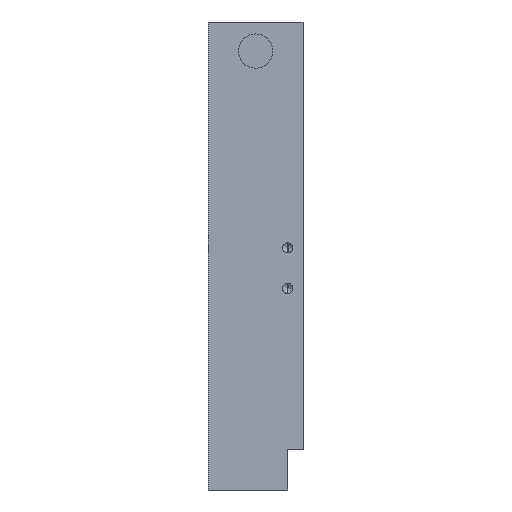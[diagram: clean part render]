
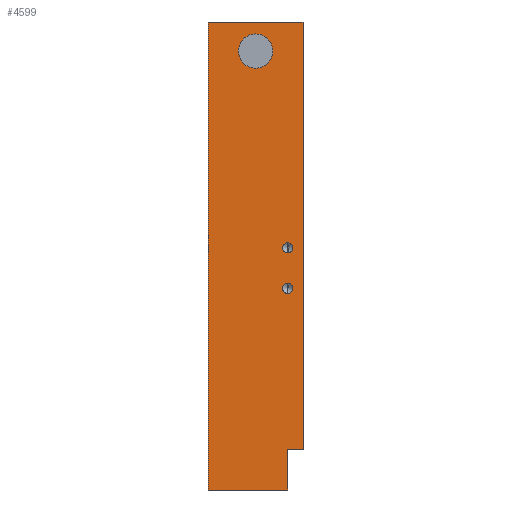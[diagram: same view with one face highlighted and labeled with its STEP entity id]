
A CAD part, left-side view. The second image highlights one B-rep face of the part: STEP entity #4599.
In plain terms, the highlighted planar face has unit normal (-1, 0, 0).
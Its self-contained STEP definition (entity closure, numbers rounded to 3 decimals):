
#5 = ORIENTED_EDGE ( 'NONE', *, *, #462, .F. ) ;
#45 = EDGE_CURVE ( 'NONE', #3520, #3289, #3191, .T. ) ;
#161 = CIRCLE ( 'NONE', #4144, 1.25 ) ;
#204 = VERTEX_POINT ( 'NONE', #3763 ) ;
#261 = LINE ( 'NONE', #3001, #530 ) ;
#266 = FACE_BOUND ( 'NONE', #2997, .T. ) ;
#306 = LINE ( 'NONE', #5026, #2471 ) ;
#355 = ORIENTED_EDGE ( 'NONE', *, *, #5074, .F. ) ;
#462 = EDGE_CURVE ( 'NONE', #204, #1691, #4390, .T. ) ;
#528 = AXIS2_PLACEMENT_3D ( 'NONE', #2910, #1632, #2890 ) ;
#530 = VECTOR ( 'NONE', #3831, 1000. ) ;
#611 = CARTESIAN_POINT ( 'NONE',  ( -216.5, 23.7, 58. ) ) ;
#647 = VERTEX_POINT ( 'NONE', #3565 ) ;
#667 = DIRECTION ( 'NONE',  ( -1., 0., 0. ) ) ;
#715 = EDGE_CURVE ( 'NONE', #2352, #4295, #3093, .T. ) ;
#718 = CARTESIAN_POINT ( 'NONE',  ( -216.5, 4., 2. ) ) ;
#745 = CARTESIAN_POINT ( 'NONE',  ( -216.5, 23.7, -58. ) ) ;
#814 = VERTEX_POINT ( 'NONE', #4631 ) ;
#882 = DIRECTION ( 'NONE',  ( 0., 0., -1. ) ) ;
#1021 = AXIS2_PLACEMENT_3D ( 'NONE', #2085, #3384, #2511 ) ;
#1137 = FACE_BOUND ( 'NONE', #2224, .T. ) ;
#1182 = VECTOR ( 'NONE', #4120, 1000. ) ;
#1190 = DIRECTION ( 'NONE',  ( -1., 0., 0. ) ) ;
#1344 = PLANE ( 'NONE',  #3712 ) ;
#1371 = VERTEX_POINT ( 'NONE', #2807 ) ;
#1388 = VECTOR ( 'NONE', #1887, 1000. ) ;
#1395 = CARTESIAN_POINT ( 'NONE',  ( -216.5, 11.95, 50.8 ) ) ;
#1411 = DIRECTION ( 'NONE',  ( 0., 0., -1. ) ) ;
#1496 = VERTEX_POINT ( 'NONE', #4639 ) ;
#1632 = DIRECTION ( 'NONE',  ( -1., 0., 0. ) ) ;
#1646 = ORIENTED_EDGE ( 'NONE', *, *, #715, .T. ) ;
#1691 = VERTEX_POINT ( 'NONE', #2579 ) ;
#1748 = CARTESIAN_POINT ( 'NONE',  ( -216.5, 0., -48. ) ) ;
#1853 = ORIENTED_EDGE ( 'NONE', *, *, #4695, .T. ) ;
#1887 = DIRECTION ( 'NONE',  ( 0., 0., -1. ) ) ;
#1987 = FACE_BOUND ( 'NONE', #3818, .T. ) ;
#1999 = EDGE_CURVE ( 'NONE', #2516, #204, #2945, .T. ) ;
#2020 = CARTESIAN_POINT ( 'NONE',  ( -216.5, 4., -48. ) ) ;
#2071 = EDGE_CURVE ( 'NONE', #814, #5401, #5098, .T. ) ;
#2085 = CARTESIAN_POINT ( 'NONE',  ( -216.5, 4., -8. ) ) ;
#2128 = VECTOR ( 'NONE', #2357, 1000. ) ;
#2185 = CIRCLE ( 'NONE', #528, 1.25 ) ;
#2224 = EDGE_LOOP ( 'NONE', ( #2536, #4247 ) ) ;
#2273 = EDGE_CURVE ( 'NONE', #3943, #1371, #2185, .T. ) ;
#2286 = LINE ( 'NONE', #2020, #2980 ) ;
#2288 = DIRECTION ( 'NONE',  ( -1., 0., 0. ) ) ;
#2352 = VERTEX_POINT ( 'NONE', #1748 ) ;
#2357 = DIRECTION ( 'NONE',  ( 0., -1., 0. ) ) ;
#2471 = VECTOR ( 'NONE', #2870, 1000. ) ;
#2489 = ORIENTED_EDGE ( 'NONE', *, *, #2781, .F. ) ;
#2498 = ORIENTED_EDGE ( 'NONE', *, *, #2687, .F. ) ;
#2511 = DIRECTION ( 'NONE',  ( 0., 0., 1. ) ) ;
#2516 = VERTEX_POINT ( 'NONE', #4939 ) ;
#2536 = ORIENTED_EDGE ( 'NONE', *, *, #5109, .F. ) ;
#2579 = CARTESIAN_POINT ( 'NONE',  ( -216.5, 0.2, 42. ) ) ;
#2687 = EDGE_CURVE ( 'NONE', #5401, #814, #161, .T. ) ;
#2781 = EDGE_CURVE ( 'NONE', #1371, #3943, #5281, .T. ) ;
#2787 = DIRECTION ( 'NONE',  ( 0., -1., 0. ) ) ;
#2807 = CARTESIAN_POINT ( 'NONE',  ( -216.5, 4., -9.25 ) ) ;
#2870 = DIRECTION ( 'NONE',  ( 0., 0., 1. ) ) ;
#2890 = DIRECTION ( 'NONE',  ( 0., 0., 1. ) ) ;
#2910 = CARTESIAN_POINT ( 'NONE',  ( -216.5, 4., -8. ) ) ;
#2921 = DIRECTION ( 'NONE',  ( 0., 0., 1. ) ) ;
#2945 = LINE ( 'NONE', #611, #2128 ) ;
#2980 = VECTOR ( 'NONE', #3702, 1000. ) ;
#2996 = DIRECTION ( 'NONE',  ( -1., 0., 0. ) ) ;
#2997 = EDGE_LOOP ( 'NONE', ( #4159, #2489 ) ) ;
#3001 = CARTESIAN_POINT ( 'NONE',  ( -216.5, 0.2, 42. ) ) ;
#3087 = CARTESIAN_POINT ( 'NONE',  ( -216.5, 0., 42. ) ) ;
#3093 = LINE ( 'NONE', #5337, #1182 ) ;
#3114 = DIRECTION ( 'NONE',  ( 0., 0., -1. ) ) ;
#3129 = ORIENTED_EDGE ( 'NONE', *, *, #4929, .F. ) ;
#3191 = LINE ( 'NONE', #5365, #4761 ) ;
#3207 = VECTOR ( 'NONE', #4477, 1000. ) ;
#3250 = AXIS2_PLACEMENT_3D ( 'NONE', #4590, #667, #3694 ) ;
#3289 = VERTEX_POINT ( 'NONE', #4047 ) ;
#3384 = DIRECTION ( 'NONE',  ( -1., 0., 0. ) ) ;
#3430 = CARTESIAN_POINT ( 'NONE',  ( -216.5, 11.95, 50.8 ) ) ;
#3520 = VERTEX_POINT ( 'NONE', #745 ) ;
#3565 = CARTESIAN_POINT ( 'NONE',  ( -216.5, 11.95, 46.55 ) ) ;
#3694 = DIRECTION ( 'NONE',  ( 0., 0., 1. ) ) ;
#3702 = DIRECTION ( 'NONE',  ( 0., -1., 0. ) ) ;
#3710 = ORIENTED_EDGE ( 'NONE', *, *, #2071, .F. ) ;
#3712 = AXIS2_PLACEMENT_3D ( 'NONE', #4858, #4010, #1411 ) ;
#3763 = CARTESIAN_POINT ( 'NONE',  ( -216.5, 0.2, 58. ) ) ;
#3818 = EDGE_LOOP ( 'NONE', ( #2498, #3710 ) ) ;
#3831 = DIRECTION ( 'NONE',  ( 0., -1., 0. ) ) ;
#3940 = ORIENTED_EDGE ( 'NONE', *, *, #5466, .F. ) ;
#3943 = VERTEX_POINT ( 'NONE', #5083 ) ;
#3949 = LINE ( 'NONE', #4882, #3207 ) ;
#4010 = DIRECTION ( 'NONE',  ( 1., 0., 0. ) ) ;
#4047 = CARTESIAN_POINT ( 'NONE',  ( -216.5, 4., -58. ) ) ;
#4113 = ORIENTED_EDGE ( 'NONE', *, *, #45, .T. ) ;
#4120 = DIRECTION ( 'NONE',  ( 0., 0., 1. ) ) ;
#4144 = AXIS2_PLACEMENT_3D ( 'NONE', #718, #1190, #2921 ) ;
#4159 = ORIENTED_EDGE ( 'NONE', *, *, #2273, .F. ) ;
#4247 = ORIENTED_EDGE ( 'NONE', *, *, #4510, .F. ) ;
#4295 = VERTEX_POINT ( 'NONE', #3087 ) ;
#4299 = CIRCLE ( 'NONE', #5005, 4.25 ) ;
#4390 = LINE ( 'NONE', #5324, #1388 ) ;
#4477 = DIRECTION ( 'NONE',  ( 0., 0., -1. ) ) ;
#4510 = EDGE_CURVE ( 'NONE', #5513, #647, #4658, .T. ) ;
#4534 = CARTESIAN_POINT ( 'NONE',  ( -216.5, 11.95, 55.05 ) ) ;
#4590 = CARTESIAN_POINT ( 'NONE',  ( -216.5, 4., 2. ) ) ;
#4599 = ADVANCED_FACE ( 'NONE', ( #1987, #266, #1137, #4616 ), #1344, .F. ) ;
#4616 = FACE_OUTER_BOUND ( 'NONE', #4925, .T. ) ;
#4631 = CARTESIAN_POINT ( 'NONE',  ( -216.5, 4., 0.75 ) ) ;
#4639 = CARTESIAN_POINT ( 'NONE',  ( -216.5, 4., -48. ) ) ;
#4658 = CIRCLE ( 'NONE', #5399, 4.25 ) ;
#4695 = EDGE_CURVE ( 'NONE', #1496, #2352, #2286, .T. ) ;
#4761 = VECTOR ( 'NONE', #2787, 1000. ) ;
#4858 = CARTESIAN_POINT ( 'NONE',  ( -216.5, 23.7, 58. ) ) ;
#4882 = CARTESIAN_POINT ( 'NONE',  ( -216.5, 4., -58. ) ) ;
#4901 = CARTESIAN_POINT ( 'NONE',  ( -216.5, 4., 3.25 ) ) ;
#4925 = EDGE_LOOP ( 'NONE', ( #3940, #1853, #1646, #3129, #5, #4960, #355, #4113 ) ) ;
#4929 = EDGE_CURVE ( 'NONE', #1691, #4295, #261, .T. ) ;
#4939 = CARTESIAN_POINT ( 'NONE',  ( -216.5, 23.7, 58. ) ) ;
#4960 = ORIENTED_EDGE ( 'NONE', *, *, #1999, .F. ) ;
#5005 = AXIS2_PLACEMENT_3D ( 'NONE', #3430, #2996, #882 ) ;
#5026 = CARTESIAN_POINT ( 'NONE',  ( -216.5, 23.7, 58. ) ) ;
#5074 = EDGE_CURVE ( 'NONE', #3520, #2516, #306, .T. ) ;
#5083 = CARTESIAN_POINT ( 'NONE',  ( -216.5, 4., -6.75 ) ) ;
#5098 = CIRCLE ( 'NONE', #3250, 1.25 ) ;
#5109 = EDGE_CURVE ( 'NONE', #647, #5513, #4299, .T. ) ;
#5281 = CIRCLE ( 'NONE', #1021, 1.25 ) ;
#5324 = CARTESIAN_POINT ( 'NONE',  ( -216.5, 0.2, 58. ) ) ;
#5337 = CARTESIAN_POINT ( 'NONE',  ( -216.5, 0., 58. ) ) ;
#5365 = CARTESIAN_POINT ( 'NONE',  ( -216.5, 23.7, -58. ) ) ;
#5399 = AXIS2_PLACEMENT_3D ( 'NONE', #1395, #2288, #3114 ) ;
#5401 = VERTEX_POINT ( 'NONE', #4901 ) ;
#5466 = EDGE_CURVE ( 'NONE', #1496, #3289, #3949, .T. ) ;
#5513 = VERTEX_POINT ( 'NONE', #4534 ) ;
